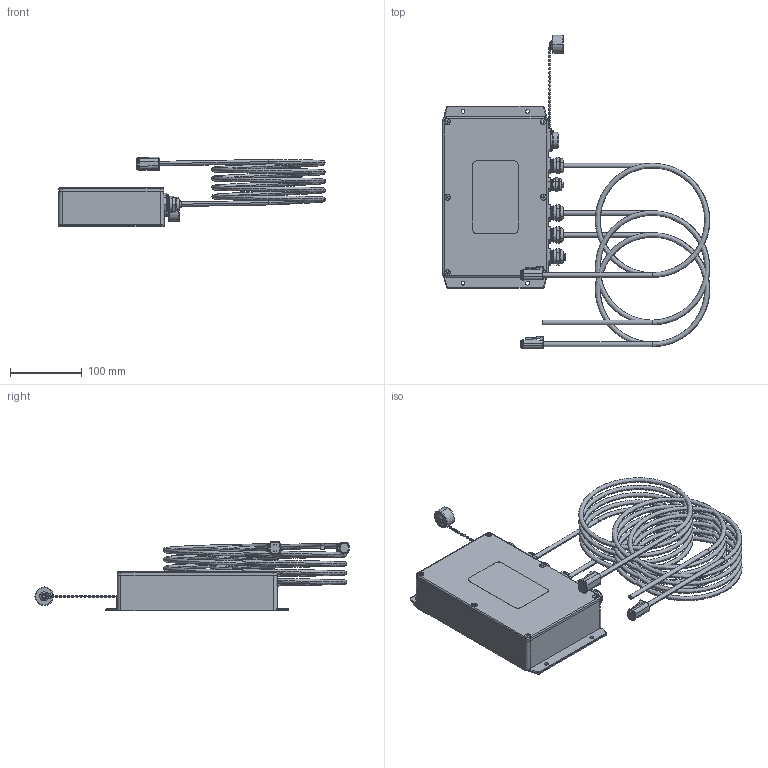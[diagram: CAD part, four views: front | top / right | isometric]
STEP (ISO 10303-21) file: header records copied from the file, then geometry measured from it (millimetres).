
FILE_DESCRIPTION (( 'STEP AP203' ), '1' );
FILE_NAME ('YE-VK_Box.STEP', '2014-11-13T16:25:21', ( '' ), ( '' ), 'SwSTEP 2.0', 'SolidWorks 2014', '' );
FILE_SCHEMA (( 'CONFIG_CONTROL_DESIGN' ));
Length unit declared in the file: inch
Products named in the file (1): YE-VK_Box
Bounding box: 372.7 x 437.59 x 97.54 mm (x, y, z)
Surface area: 295302.8 mm2 (no closed solid volume)
Topology: 0 solids, 62 shells, 691 faces, 2314 edges, 1618 vertices
Faces by surface type: plane 271, cylinder 238, cone 71, sphere 48, torus 43, bspline 20
Entity records: 39932 total; most frequent: CARTESIAN_POINT 20902, DIRECTION 4012, ORIENTED_EDGE 3525, EDGE_CURVE 2198, VERTEX_POINT 1550, AXIS2_PLACEMENT_3D 1480, LINE 1052, VECTOR 1052
